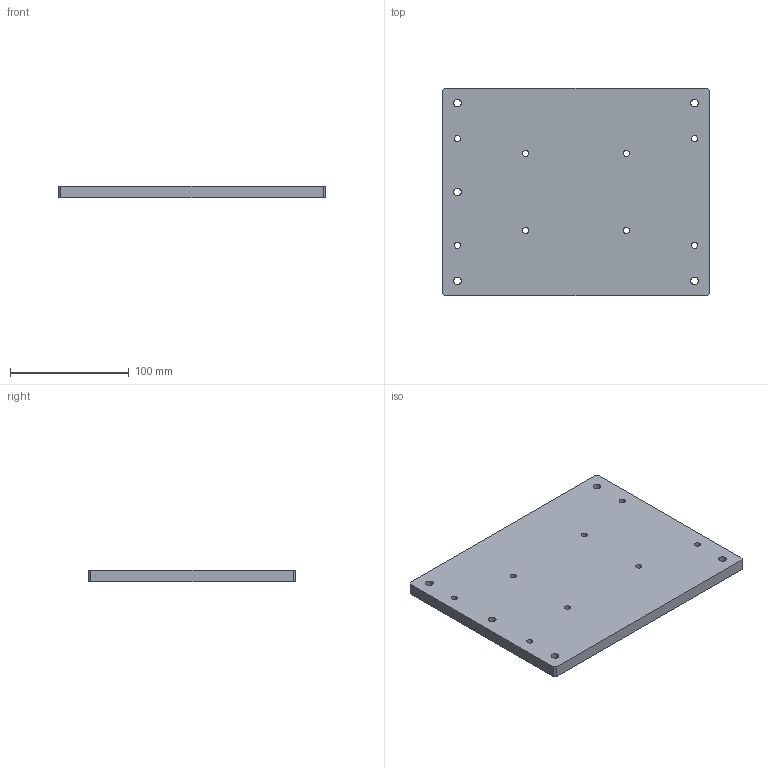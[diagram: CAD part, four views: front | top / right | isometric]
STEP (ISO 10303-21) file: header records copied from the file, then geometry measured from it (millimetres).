
FILE_DESCRIPTION(('CATIA V5 STEP Exchange'),'2;1');
FILE_NAME('D:\姚明阳\2、工装图纸\激光代表工装\AGZ091 腰托阀打标治具\AGZ091.01_V1 底板.stp','2022-08-02T01:20:29+00:00',('none'),('none'),'CATIA Version 5 Release 21 GA (IN-10)','CATIA V5 STEP AP214','none');
FILE_SCHEMA(('AUTOMOTIVE_DESIGN { 1 0 10303 214 1 1 1 1 }'));
Length unit declared in the file: millimetre
Products named in the file (1): AGZ091.01_V1（底板）
Bounding box: 225 x 175 x 10 mm (x, y, z)
Volume: 390311.9 mm3; surface area: 88343.4 mm2
Topology: 1 solids, 1 shells, 36 faces, 102 edges, 68 vertices
Faces by surface type: cylinder 26, plane 10
Entity records: 1155 total; most frequent: ORIENTED_EDGE 204, CARTESIAN_POINT 194, DIRECTION 148, EDGE_CURVE 102, AXIS2_PLACEMENT_3D 76, VERTEX_POINT 68, EDGE_LOOP 62, CIRCLE 52
